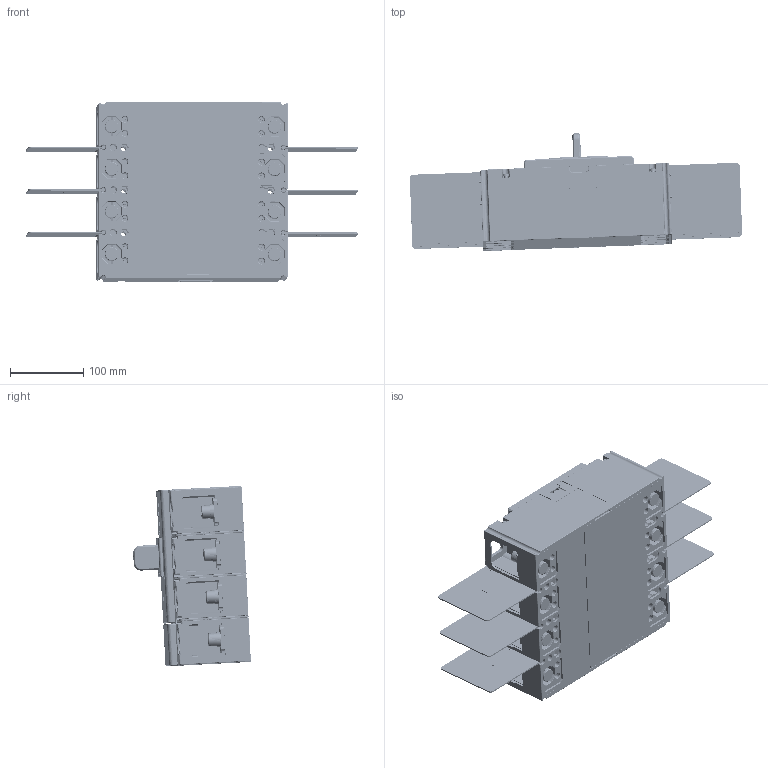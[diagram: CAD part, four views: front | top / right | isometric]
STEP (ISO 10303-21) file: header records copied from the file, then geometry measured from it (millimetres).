
FILE_DESCRIPTION((''),'2;1');
FILE_NAME('2253031000_SW0001','2023-12-12T',('shuanglong.wu'),(''),'PRO/ENGINEER BY PARAMETRIC TECHNOLOGY CORPORATION, 2015440','PRO/ENGINEER BY PARAMETRIC TECHNOLOGY CORPORATION, 2015440','');
FILE_SCHEMA(('CONFIG_CONTROL_DESIGN'));
Products named in the file (1): 2253031000_SW0001
Bounding box: 451.82 x 160.23 x 245.38 mm (x, y, z)
Volume: 4901699.8 mm3; surface area: 879776.4 mm2
Topology: 21 solids, 33 shells, 7823 faces, 20605 edges, 13066 vertices
Faces by surface type: plane 4677, cylinder 1997, torus 490, extrusion 239, cone 215, sphere 108, bspline 97
Entity records: 263171 total; most frequent: CARTESIAN_POINT 69023, ORIENTED_EDGE 41178, DIRECTION 39271, EDGE_CURVE 20589, VECTOR 14639, LINE 14400, VERTEX_POINT 13066, AXIS2_PLACEMENT_3D 12316
